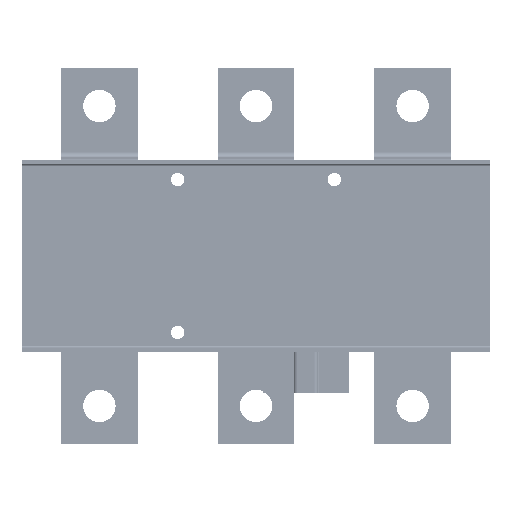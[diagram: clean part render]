
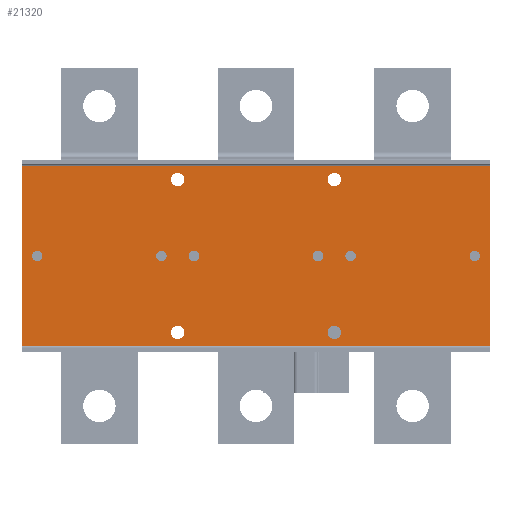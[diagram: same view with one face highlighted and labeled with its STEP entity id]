
A CAD part, left-side view. The second image highlights one B-rep face of the part: STEP entity #21320.
In plain terms, the highlighted planar face has unit normal (-1, 0, 0).
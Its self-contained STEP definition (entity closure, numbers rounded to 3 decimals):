
#4994=FACE_BOUND('',#47161,.T.);
#4995=FACE_BOUND('',#47162,.T.);
#4996=FACE_BOUND('',#47163,.T.);
#4997=FACE_BOUND('',#47164,.T.);
#4998=FACE_BOUND('',#47165,.T.);
#4999=FACE_BOUND('',#47166,.T.);
#5000=FACE_BOUND('',#47167,.T.);
#5001=FACE_BOUND('',#47168,.T.);
#5002=FACE_BOUND('',#47169,.T.);
#5003=FACE_BOUND('',#47170,.T.);
#5004=FACE_BOUND('',#47171,.T.);
#11807=CIRCLE('',#191187,3.5);
#11808=CIRCLE('',#191188,2.75);
#11809=CIRCLE('',#191189,2.75);
#11810=CIRCLE('',#191190,2.75);
#11811=CIRCLE('',#191191,3.5);
#11812=CIRCLE('',#191192,2.75);
#11813=CIRCLE('',#191193,2.75);
#11814=CIRCLE('',#191194,2.75);
#11815=CIRCLE('',#191195,3.5);
#11816=CIRCLE('',#191196,3.5);
#21320=ADVANCED_FACE('',(#4994,#4995,#4996,#4997,#4998,#4999,#5000,#5001,
#5002,#5003,#5004),#27757,.F.);
#27757=PLANE('',#191197);
#47161=EDGE_LOOP('',(#97393));
#47162=EDGE_LOOP('',(#97394));
#47163=EDGE_LOOP('',(#97395));
#47164=EDGE_LOOP('',(#97396));
#47165=EDGE_LOOP('',(#97397));
#47166=EDGE_LOOP('',(#97398,#97399,#97400,#97401));
#47167=EDGE_LOOP('',(#97402));
#47168=EDGE_LOOP('',(#97403));
#47169=EDGE_LOOP('',(#97404));
#47170=EDGE_LOOP('',(#97405));
#47171=EDGE_LOOP('',(#97406));
#97393=ORIENTED_EDGE('',*,*,#139558,.F.);
#97394=ORIENTED_EDGE('',*,*,#139559,.F.);
#97395=ORIENTED_EDGE('',*,*,#139560,.F.);
#97396=ORIENTED_EDGE('',*,*,#139561,.F.);
#97397=ORIENTED_EDGE('',*,*,#139562,.F.);
#97398=ORIENTED_EDGE('',*,*,#139563,.T.);
#97399=ORIENTED_EDGE('',*,*,#139564,.T.);
#97400=ORIENTED_EDGE('',*,*,#139565,.F.);
#97401=ORIENTED_EDGE('',*,*,#139566,.T.);
#97402=ORIENTED_EDGE('',*,*,#139567,.F.);
#97403=ORIENTED_EDGE('',*,*,#139568,.F.);
#97404=ORIENTED_EDGE('',*,*,#139569,.F.);
#97405=ORIENTED_EDGE('',*,*,#139570,.F.);
#97406=ORIENTED_EDGE('',*,*,#139571,.F.);
#114342=VERTEX_POINT('',#333023);
#114343=VERTEX_POINT('',#333025);
#114344=VERTEX_POINT('',#333027);
#114345=VERTEX_POINT('',#333029);
#114346=VERTEX_POINT('',#333031);
#114347=VERTEX_POINT('',#333033);
#114348=VERTEX_POINT('',#333034);
#114349=VERTEX_POINT('',#333036);
#114350=VERTEX_POINT('',#333038);
#114351=VERTEX_POINT('',#333041);
#114352=VERTEX_POINT('',#333043);
#114353=VERTEX_POINT('',#333045);
#114354=VERTEX_POINT('',#333047);
#114355=VERTEX_POINT('',#333049);
#139558=EDGE_CURVE('',#114342,#114342,#11807,.T.);
#139559=EDGE_CURVE('',#114343,#114343,#11808,.T.);
#139560=EDGE_CURVE('',#114344,#114344,#11809,.T.);
#139561=EDGE_CURVE('',#114345,#114345,#11810,.T.);
#139562=EDGE_CURVE('',#114346,#114346,#11811,.T.);
#139563=EDGE_CURVE('',#114347,#114348,#158175,.T.);
#139564=EDGE_CURVE('',#114348,#114349,#158176,.T.);
#139565=EDGE_CURVE('',#114350,#114349,#158177,.T.);
#139566=EDGE_CURVE('',#114350,#114347,#158178,.T.);
#139567=EDGE_CURVE('',#114351,#114351,#11812,.T.);
#139568=EDGE_CURVE('',#114352,#114352,#11813,.T.);
#139569=EDGE_CURVE('',#114353,#114353,#11814,.T.);
#139570=EDGE_CURVE('',#114354,#114354,#11815,.T.);
#139571=EDGE_CURVE('',#114355,#114355,#11816,.T.);
#158175=LINE('',#333032,#176713);
#158176=LINE('',#333035,#176714);
#158177=LINE('',#333037,#176715);
#158178=LINE('',#333039,#176716);
#176713=VECTOR('',#238432,1.);
#176714=VECTOR('',#238433,1.);
#176715=VECTOR('',#238434,1.);
#176716=VECTOR('',#238435,1.);
#191187=AXIS2_PLACEMENT_3D('',#333022,#238422,#238423);
#191188=AXIS2_PLACEMENT_3D('',#333024,#238424,#238425);
#191189=AXIS2_PLACEMENT_3D('',#333026,#238426,#238427);
#191190=AXIS2_PLACEMENT_3D('',#333028,#238428,#238429);
#191191=AXIS2_PLACEMENT_3D('',#333030,#238430,#238431);
#191192=AXIS2_PLACEMENT_3D('',#333040,#238436,#238437);
#191193=AXIS2_PLACEMENT_3D('',#333042,#238438,#238439);
#191194=AXIS2_PLACEMENT_3D('',#333044,#238440,#238441);
#191195=AXIS2_PLACEMENT_3D('',#333046,#238442,#238443);
#191196=AXIS2_PLACEMENT_3D('',#333048,#238444,#238445);
#191197=AXIS2_PLACEMENT_3D('',#333050,#238446,#238447);
#238422=DIRECTION('',(-1.,0.,0.));
#238423=DIRECTION('',(0.,0.,-1.));
#238424=DIRECTION('',(-1.,0.,0.));
#238425=DIRECTION('',(0.,0.,-1.));
#238426=DIRECTION('',(-1.,0.,0.));
#238427=DIRECTION('',(0.,0.,-1.));
#238428=DIRECTION('',(-1.,0.,0.));
#238429=DIRECTION('',(0.,0.,-1.));
#238430=DIRECTION('',(-1.,0.,0.));
#238431=DIRECTION('',(0.,0.,-1.));
#238432=DIRECTION('',(0.,0.,-1.));
#238433=DIRECTION('',(0.,-1.,0.));
#238434=DIRECTION('',(0.,0.,-1.));
#238435=DIRECTION('',(0.,1.,0.));
#238436=DIRECTION('',(-1.,0.,0.));
#238437=DIRECTION('',(0.,0.,-1.));
#238438=DIRECTION('',(-1.,0.,0.));
#238439=DIRECTION('',(0.,0.,-1.));
#238440=DIRECTION('',(-1.,0.,0.));
#238441=DIRECTION('',(0.,0.,-1.));
#238442=DIRECTION('',(-1.,0.,0.));
#238443=DIRECTION('',(0.,0.,-1.));
#238444=DIRECTION('',(-1.,0.,0.));
#238445=DIRECTION('',(0.,0.,-1.));
#238446=DIRECTION('',(1.,0.,0.));
#238447=DIRECTION('',(0.,-1.,0.));
#333022=CARTESIAN_POINT('',(-18.028,-55.74,46.035));
#333023=CARTESIAN_POINT('',(-18.028,-55.74,42.535));
#333024=CARTESIAN_POINT('',(-18.028,17.76,86.035));
#333025=CARTESIAN_POINT('',(-18.028,17.76,83.285));
#333026=CARTESIAN_POINT('',(-18.028,-64.24,86.035));
#333027=CARTESIAN_POINT('',(-18.028,-64.24,83.285));
#333028=CARTESIAN_POINT('',(-18.028,-146.24,86.035));
#333029=CARTESIAN_POINT('',(-18.028,-146.24,83.285));
#333030=CARTESIAN_POINT('',(-18.028,-137.74,46.035));
#333031=CARTESIAN_POINT('',(-18.028,-137.74,42.535));
#333032=CARTESIAN_POINT('',(-18.028,25.76,86.035));
#333033=CARTESIAN_POINT('',(-18.028,25.76,133.035));
#333034=CARTESIAN_POINT('',(-18.028,25.76,39.035));
#333035=CARTESIAN_POINT('',(-18.028,-219.24,39.035));
#333036=CARTESIAN_POINT('',(-18.028,-219.24,39.035));
#333037=CARTESIAN_POINT('',(-18.028,-219.24,134.035));
#333038=CARTESIAN_POINT('',(-18.028,-219.24,133.035));
#333039=CARTESIAN_POINT('',(-18.028,25.76,133.035));
#333040=CARTESIAN_POINT('',(-18.028,-211.24,86.035));
#333041=CARTESIAN_POINT('',(-18.028,-211.24,83.285));
#333042=CARTESIAN_POINT('',(-18.028,-129.24,86.035));
#333043=CARTESIAN_POINT('',(-18.028,-129.24,83.285));
#333044=CARTESIAN_POINT('',(-18.028,-47.24,86.035));
#333045=CARTESIAN_POINT('',(-18.028,-47.24,83.285));
#333046=CARTESIAN_POINT('',(-18.028,-137.74,126.035));
#333047=CARTESIAN_POINT('',(-18.028,-137.74,122.535));
#333048=CARTESIAN_POINT('',(-18.028,-55.74,126.035));
#333049=CARTESIAN_POINT('',(-18.028,-55.74,122.535));
#333050=CARTESIAN_POINT('',(-18.028,-219.24,86.035));
